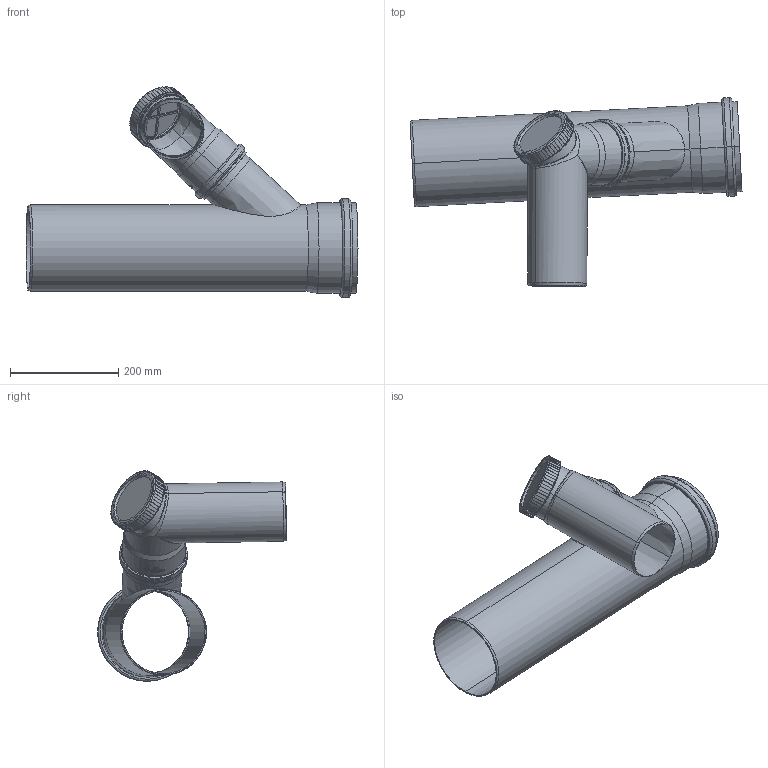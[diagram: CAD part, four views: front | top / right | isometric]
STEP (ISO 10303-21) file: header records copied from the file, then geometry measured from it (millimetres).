
FILE_DESCRIPTION((''),'2;1');
FILE_NAME('20-5511113204_ASM','2022-02-18T09:39:07',('ctgas'),('Centrotherm'),'CREO PARAMETRIC BY PTC INC, 2020281','CREO PARAMETRIC BY PTC INC, 2020281','');
FILE_SCHEMA(('AP242_MANAGED_MODEL_BASED_3D_ENGINEERING_MIM_LF { 1 0 10303 442 1 1 4 }'));
Length unit declared in the file: millimetre
Products named in the file (11): 20-1100001816_1000_AF0; 20-1100004791_AF0; 20-1100008865_ASM; 34014510; 20-1100008866_ASM; 20-1100000543; 20-0002073000; 20-0034033000; 20-0034013010; 20-1100002662_ASM; 20-5511113204_ASM
Assembly tree (10 placements, depth 4):
  20-5511113204_ASM
    20-1100008866_ASM
      20-1100008865_ASM
        20-1100001816_1000_AF0
        20-1100004791_AF0
      34014510
    20-1100002662_ASM
      20-1100000543
      20-0002073000
      20-0034033000
      20-0034013010
Bounding box: 614.59 x 349.73 x 390.06 mm (x, y, z)
Volume: 1619568.2 mm3; surface area: 1046506.8 mm2
Topology: 7 solids, 7 shells, 1012 faces, 2590 edges, 1632 vertices
Faces by surface type: plane 641, cylinder 162, cone 94, torus 70, bspline 34, extrusion 7, sphere 4
Entity records: 47114 total; most frequent: CARTESIAN_POINT 14104, ORIENTED_EDGE 5180, DIRECTION 4679, PRESENTATION_STYLE_ASSIGNMENT 2683, STYLED_ITEM 2683, CURVE_STYLE 2590, EDGE_CURVE 2590, AXIS2_PLACEMENT_3D 1735
